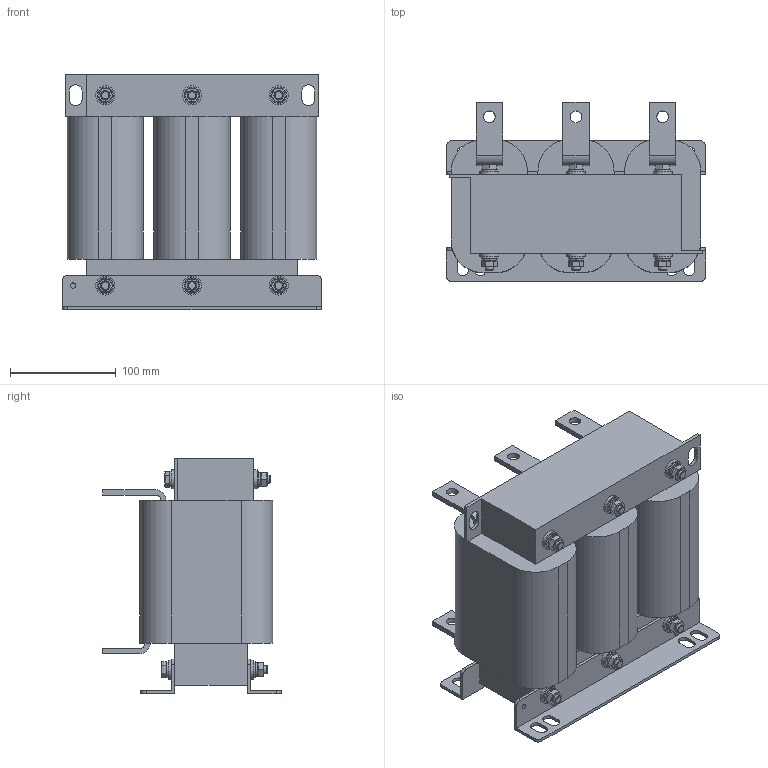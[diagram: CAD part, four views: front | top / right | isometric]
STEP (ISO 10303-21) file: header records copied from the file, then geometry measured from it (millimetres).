
FILE_DESCRIPTION(('STEP AP203'), '1');
FILE_NAME('栖闉罻 _ ISF-132_256-4', '', ('UNSPECIFIED'), ('UNSPECIFIED'), 'ASCON STEP Converter 1.6', 'ASCON Math Kernel', '');
FILE_SCHEMA(('CONFIG_CONTROL_DESIGN'));
Length unit declared in the file: millimetre
Products named in the file (12): ISF-132_256-4
Assembly tree (55 placements, depth 2):
  ISF-132_256-4
    ISF-132_256-4
    ISF-132_256-4  x2
    ISF-132_256-4  x3
    ISF-132_256-4
    ISF-132_256-4  x3
    ISF-132_256-4  x3
    ISF-132_256-4  x12
    ISF-132_256-4  x12
    ISF-132_256-4  x6
    ISF-132_256-4  x6
    ISF-132_256-4  x6
Bounding box: 245 x 169 x 223 mm (x, y, z)
Volume: 4665568 mm3; surface area: 421441.7 mm2
Topology: 55 solids, 55 shells, 586 faces, 1248 edges, 778 vertices
Faces by surface type: plane 424, cylinder 132, cone 18, torus 12
Full cylindrical faces by diameter (mm): 5 x2, 8 x48, 11 x6, 15 x12, 18 x12
Entity records: 6320 total; most frequent: CARTESIAN_POINT 1072, DIRECTION 832, ORIENTED_EDGE 666, EDGE_CURVE 333, AXIS2_PLACEMENT_3D 297, LINE 238, VECTOR 238, VERTEX_POINT 227
